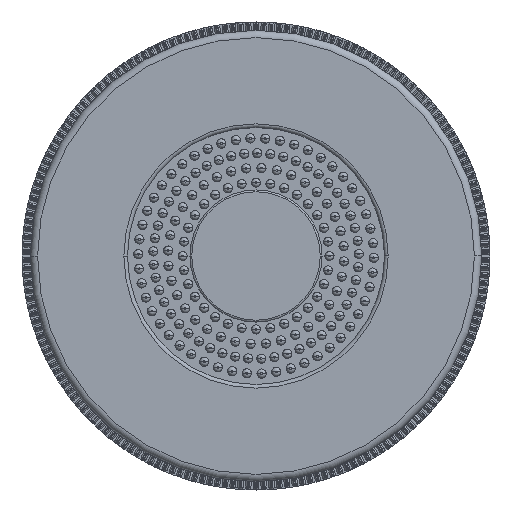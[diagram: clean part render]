
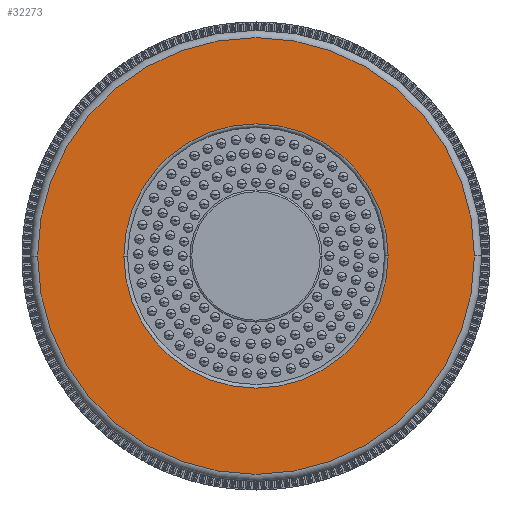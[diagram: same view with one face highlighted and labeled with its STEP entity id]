
A CAD part, front view. The second image highlights one B-rep face of the part: STEP entity #32273.
In plain terms, the highlighted planar face has unit normal (0, -1, 0).
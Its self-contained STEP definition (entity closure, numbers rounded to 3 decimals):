
#3049 = CIRCLE ( 'NONE', #56420, 59.5 ) ;
#9131 = CIRCLE ( 'NONE', #62493, 36. ) ;
#9892 = DIRECTION ( 'NONE',  ( 0., 0., 1. ) ) ;
#10260 = CARTESIAN_POINT ( 'NONE',  ( 0., 0., 0. ) ) ;
#12567 = DIRECTION ( 'NONE',  ( 0., 1., 0. ) ) ;
#13949 = VERTEX_POINT ( 'NONE', #69451 ) ;
#14407 = EDGE_CURVE ( 'NONE', #13949, #81115, #14996, .T. ) ;
#14996 = CIRCLE ( 'NONE', #27203, 59.5 ) ;
#15445 = CIRCLE ( 'NONE', #68750, 36. ) ;
#17062 = PLANE ( 'NONE',  #34461 ) ;
#24339 = VERTEX_POINT ( 'NONE', #45181 ) ;
#27203 = AXIS2_PLACEMENT_3D ( 'NONE', #63146, #92225, #28162 ) ;
#27817 = EDGE_CURVE ( 'NONE', #34560, #24339, #9131, .T. ) ;
#27952 = DIRECTION ( 'NONE',  ( 0., 1., 0. ) ) ;
#28162 = DIRECTION ( 'NONE',  ( 0., 0., 1. ) ) ;
#30311 = EDGE_LOOP ( 'NONE', ( #48315, #86607 ) ) ;
#32273 = ADVANCED_FACE ( 'NONE', ( #60455, #82409 ), #17062, .F. ) ;
#34461 = AXIS2_PLACEMENT_3D ( 'NONE', #46134, #75246, #9892 ) ;
#34560 = VERTEX_POINT ( 'NONE', #65161 ) ;
#39349 = DIRECTION ( 'NONE',  ( 0., -1., 0. ) ) ;
#41646 = DIRECTION ( 'NONE',  ( 0., 0., 1. ) ) ;
#45181 = CARTESIAN_POINT ( 'NONE',  ( 0., 0., -36. ) ) ;
#46134 = CARTESIAN_POINT ( 'NONE',  ( 0., 0., 0. ) ) ;
#48315 = ORIENTED_EDGE ( 'NONE', *, *, #27817, .T. ) ;
#56420 = AXIS2_PLACEMENT_3D ( 'NONE', #10260, #39349, #68470 ) ;
#57041 = DIRECTION ( 'NONE',  ( 0., 0., 1. ) ) ;
#59571 = EDGE_CURVE ( 'NONE', #81115, #13949, #3049, .T. ) ;
#60455 = FACE_BOUND ( 'NONE', #30311, .T. ) ;
#62493 = AXIS2_PLACEMENT_3D ( 'NONE', #93291, #27952, #57041 ) ;
#63146 = CARTESIAN_POINT ( 'NONE',  ( 0., 0., 0. ) ) ;
#64390 = ORIENTED_EDGE ( 'NONE', *, *, #14407, .T. ) ;
#65161 = CARTESIAN_POINT ( 'NONE',  ( 0., 0., 36. ) ) ;
#68470 = DIRECTION ( 'NONE',  ( 0., 0., 1. ) ) ;
#68750 = AXIS2_PLACEMENT_3D ( 'NONE', #77908, #12567, #41646 ) ;
#69451 = CARTESIAN_POINT ( 'NONE',  ( 0., 0., -59.5 ) ) ;
#75246 = DIRECTION ( 'NONE',  ( 0., 1., 0. ) ) ;
#75597 = EDGE_CURVE ( 'NONE', #24339, #34560, #15445, .T. ) ;
#77908 = CARTESIAN_POINT ( 'NONE',  ( 0., 0., 0. ) ) ;
#81115 = VERTEX_POINT ( 'NONE', #87391 ) ;
#82184 = ORIENTED_EDGE ( 'NONE', *, *, #59571, .T. ) ;
#82409 = FACE_OUTER_BOUND ( 'NONE', #85794, .T. ) ;
#85794 = EDGE_LOOP ( 'NONE', ( #82184, #64390 ) ) ;
#86607 = ORIENTED_EDGE ( 'NONE', *, *, #75597, .T. ) ;
#87391 = CARTESIAN_POINT ( 'NONE',  ( 0., 0., 59.5 ) ) ;
#92225 = DIRECTION ( 'NONE',  ( 0., -1., 0. ) ) ;
#93291 = CARTESIAN_POINT ( 'NONE',  ( 0., 0., 0. ) ) ;
